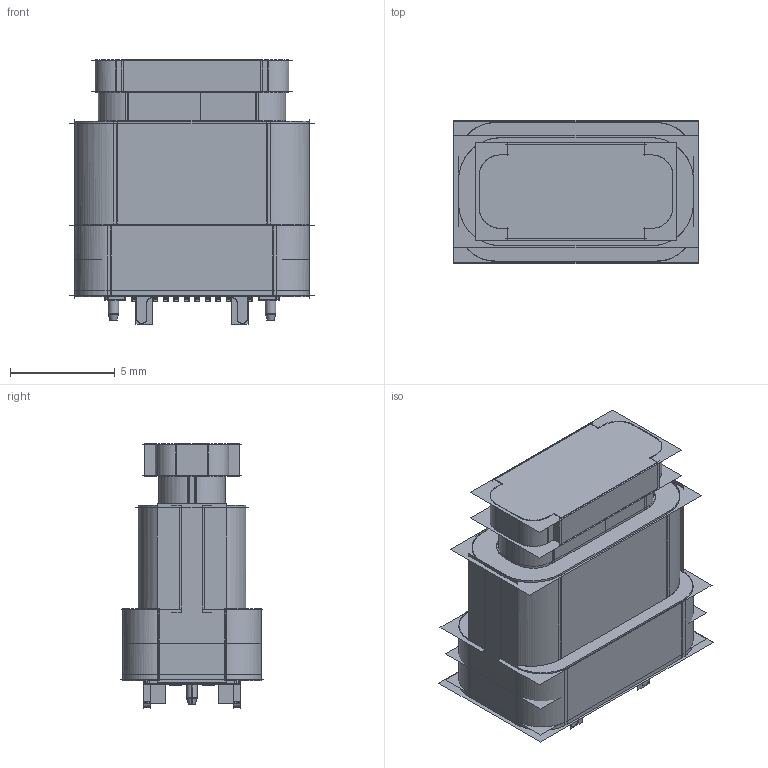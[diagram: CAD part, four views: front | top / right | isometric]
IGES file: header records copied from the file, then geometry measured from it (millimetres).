
Start section:  PTC IGES file: type-c_24pin_lt10.igs
Global section: file name: type-c_24pin_lt10.igs; native system: Creo Parametric by PTC Inc.; preprocessor: 2019010; author: connector; organization: Unknown; date: 20250408.083610; units: millimetre
Bounding box: 11.65 x 6.86 x 12.62 mm (x, y, z)
Topology: 0 solids, 0 shells, 2513 faces, 19328 edges, 19328 vertices
Faces by surface type: bspline 2513
